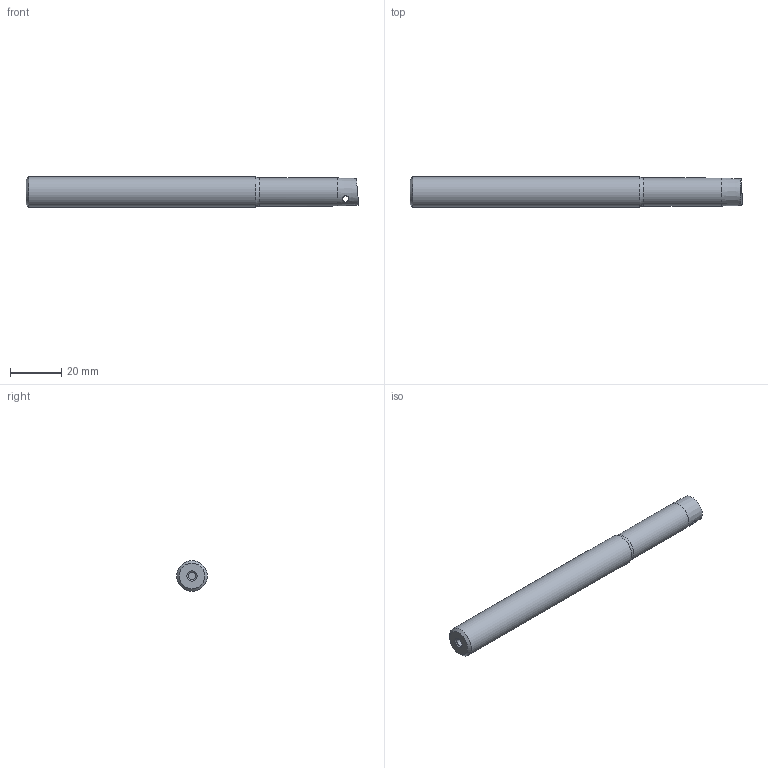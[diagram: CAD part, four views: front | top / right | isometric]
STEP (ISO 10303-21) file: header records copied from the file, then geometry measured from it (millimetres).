
FILE_DESCRIPTION(/* description */ (''),/* implementation_level */ '2;1');
FILE_NAME(/* name */ 'Z:\Проектный отдел\Влад\Фрезы исправления\EAP300R-C12-12-130-1T.stp',/* time_stamp */ '2023-06-02T16:04:55+03:00',/* author */ ('инженер'),/* organization */ (''),/* preprocessor_version */ 'ST-DEVELOPER v18',/* originating_system */ 'Autodesk Inventor 2020',/* authorisation */ '');
FILE_SCHEMA (('AUTOMOTIVE_DESIGN { 1 0 10303 214 3 1 1 }'));
Length unit declared in the file: millimetre
Products named in the file (1): EAP300R-C10-10-120L-1T
Bounding box: 130 x 12 x 12 mm (x, y, z)
Volume: 13378.7 mm3; surface area: 5040.8 mm2
Topology: 1 solids, 1 shells, 21 faces, 61 edges, 43 vertices
Faces by surface type: plane 11, cylinder 6, cone 3, torus 1
Full cylindrical faces by diameter (mm): 2.5 x1, 3 x1, 11 x1, 12 x1
Entity records: 840 total; most frequent: CARTESIAN_POINT 191, DIRECTION 131, ORIENTED_EDGE 122, EDGE_CURVE 61, AXIS2_PLACEMENT_3D 53, VERTEX_POINT 43, CIRCLE 26, LINE 25
